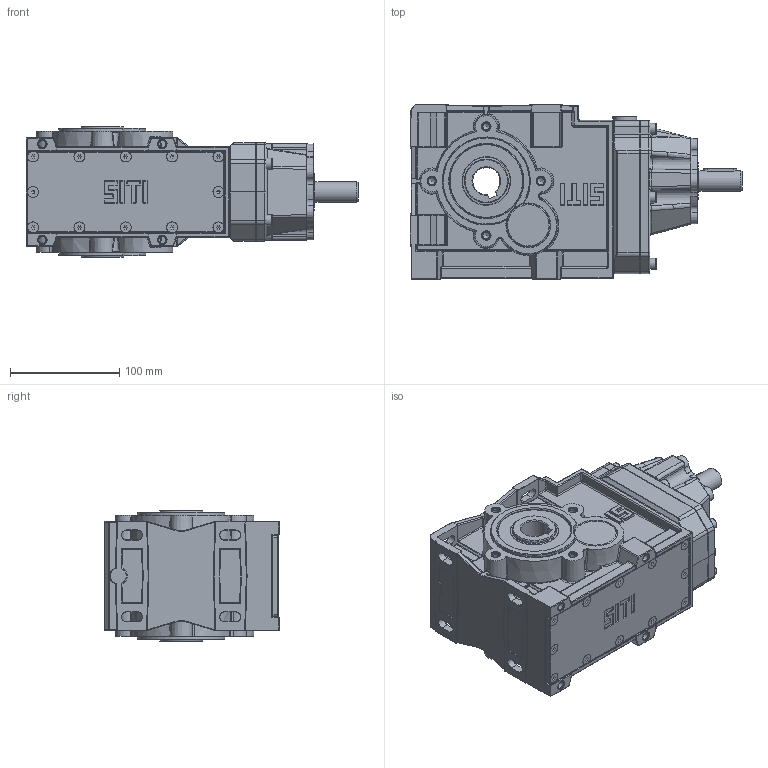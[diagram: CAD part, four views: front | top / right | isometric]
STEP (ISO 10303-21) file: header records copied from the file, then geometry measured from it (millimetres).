
FILE_DESCRIPTION((''),'2;1');
FILE_NAME('C:\Users\m.piscopiello.SITIRIDUTTORI\Desktop\3D x SITO\BH 56\BH_56 C.stp','2013-04-16T16:48:21',('m.piscopiello'),(''),'Autodesk Inventor 2012','Autodesk Inventor 2012','');
FILE_SCHEMA(('AUTOMOTIVE_DESIGN { 1 0 10303 214 1 1 1 1 }'));
Length unit declared in the file: millimetre
Products named in the file (1): BH_56 C
Bounding box: 304.5 x 160 x 120 mm (x, y, z)
Volume: 1242591.2 mm3; surface area: 407080.1 mm2
Topology: 35 solids, 42 shells, 4021 faces, 9605 edges, 5560 vertices
Faces by surface type: cylinder 1334, plane 972, bspline 792, torus 417, cone 323, sphere 183
Full cylindrical faces by diameter (mm): 3.242 x12, 4.2 x1, 4.3 x1, 4.917 x6, 5.3 x1, 6 x16, 6.647 x12, 7 x24, 8.7 x11, 10 x19, 11 x1, 19 x2, 19.4 x1, 19.97 x2, 23.5 x1, 33 x1, 34.4 x1, 35 x3, 36.875 x2, 39.4 x1, 40 x18, 41 x1, 42 x1, 42.5 x4, 43.75 x2, 45.438 x2, 48 x1, 56 x1, 58.6 x1, 62 x3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
Entity records: 133942 total; most frequent: CARTESIAN_POINT 43825, DIRECTION 17955, ORIENTED_EDGE 17442, EDGE_CURVE 8721, AXIS2_PLACEMENT_3D 7378, VERTEX_POINT 5331, EDGE_LOOP 4655, STYLED_ITEM 4022
